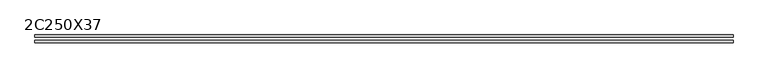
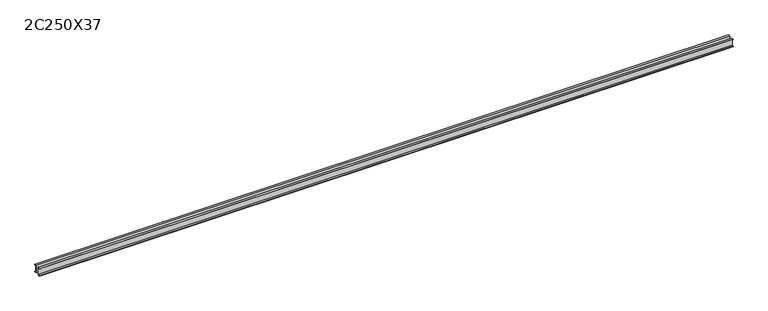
"""IFC4 building model written with IfcOpenShell, lengths in millimetres: beam geometry, Profilato a doppia C : 2C250X37."""

from ifc_helpers import new_model, si_unit, point, frame, frame_2d, origin, place, context, project, spatial, polyline, circle_curve, trimmed, segment, composite_curve, outline, extrude, source, transform, mapped, element, save


def beam_2c250x37_457c98ef(model_context):
    return source(origin(), model_context, "Body", "SweptSolid", [
        extrude(outline(composite_curve([segment(polyline([(50.0, 127.0), (123.3, 127.0)]), True, "CONTINUOUS"), segment(trimmed(circle_curve(frame_2d((112.2, 127.0)), 11.1), [point((123.3, 127.0))], [point((112.2, 115.9))], False, "CARTESIAN"), True, "CONTINUOUS"), segment(polyline([(112.2, 115.9), (63.4, 108.1708393), (63.4, -108.1708393), (112.2, -115.9)]), True, "CONTINUOUS"), segment(trimmed(circle_curve(frame_2d((112.2, -127.0)), 11.1), [point((112.2, -115.9))], [point((123.3, -127.0))], False, "CARTESIAN"), True, "CONTINUOUS"), segment(polyline([(123.3, -127.0), (50.0, -127.0), (50.0, 127.0)]), True, "CONTINUOUS")], self_intersect=False)), frame((-11142.5, 0.0, 0.0), z_axis=(1.0, 0.0, 0.0), x_axis=(0.0, 1.0, 0.0)), (0.0, 0.0, 1.0), 22285.0),
        extrude(outline(composite_curve([segment(polyline([(-50.0, 127.0), (-50.0, -127.0), (-123.3, -127.0)]), True, "CONTINUOUS"), segment(trimmed(circle_curve(frame_2d((-112.2, -127.0)), 11.1), [point((-123.3, -127.0))], [point((-112.2, -115.9))], False, "CARTESIAN"), True, "CONTINUOUS"), segment(polyline([(-112.2, -115.9), (-63.4, -108.1708393), (-63.4, 108.1708393), (-112.2, 115.9)]), True, "CONTINUOUS"), segment(trimmed(circle_curve(frame_2d((-112.2, 127.0)), 11.1), [point((-112.2, 115.9))], [point((-123.3, 127.0))], False, "CARTESIAN"), True, "CONTINUOUS"), segment(polyline([(-123.3, 127.0), (-50.0, 127.0)]), True, "CONTINUOUS")], self_intersect=False)), frame((-11142.5, 0.0, 0.0), z_axis=(1.0, 0.0, 0.0), x_axis=(0.0, 1.0, 0.0)), (0.0, 0.0, 1.0), 22285.0),
    ])


if __name__ == "__main__":
    model = new_model("IFC4")
    model_context = context("Model", 3, world=origin())
    ifc_project = project(units=[si_unit("LENGTHUNIT", "METRE", prefix="MILLI")], contexts=[model_context])
    site = spatial("IfcSite", under=ifc_project)
    building = spatial("IfcBuilding", under=site)
    placement = place(None, origin())
    beam_2c250x37_shape = beam_2c250x37_457c98ef(model_context)
    element("IfcBeam", 1, ObjectType="Profilato a doppia C : 2C250X37", at=placement, inside=building, context=model_context, shape_type="MappedRepresentation", body=[
        mapped(beam_2c250x37_shape, transform((0.0, 0.0, 0.0), x_axis=(1.0, 0.0, 0.0), y_axis=(0.0, 1.0, 0.0), z_axis=(0.0, 0.0, 1.0))),
    ])
    save(model, "model.ifc")
